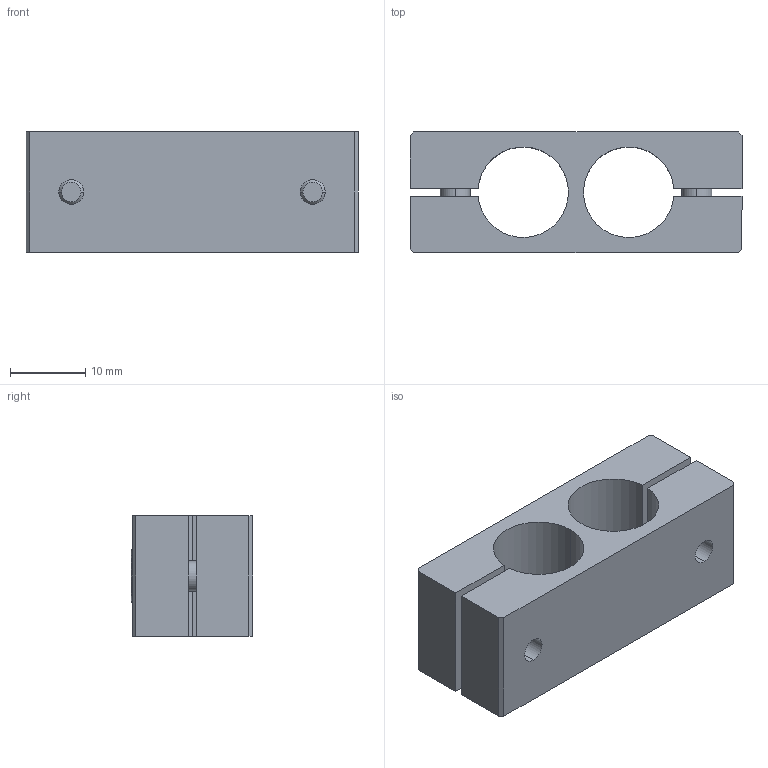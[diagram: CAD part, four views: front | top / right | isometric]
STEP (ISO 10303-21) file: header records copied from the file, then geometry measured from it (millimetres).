
FILE_DESCRIPTION (( 'STEP AP214' ), '1' );
FILE_NAME ('SMBP-1212T.STEP', '2022-12-30T08:49:15', ( 'Windows User' ), ( 'P R C' ), 'SwSTEP 2.0', 'SolidWorks 2018', '' );
FILE_SCHEMA (( 'AUTOMOTIVE_DESIGN' ));
Length unit declared in the file: millimetre
Products named in the file (1): SMBP-1212T
Bounding box: 44 x 16.1 x 16 mm (x, y, z)
Volume: 7209.4 mm3; surface area: 5683.4 mm2
Topology: 5 solids, 5 shells, 461 faces, 1327 edges, 878 vertices
Faces by surface type: plane 422, cylinder 31, cone 4, bspline 4
Entity records: 20574 total; most frequent: CARTESIAN_POINT 2915, DIRECTION 2673, ORIENTED_EDGE 2654, EDGE_CURVE 1327, AXIS2_PLACEMENT_3D 896, VECTOR 881, LINE 881, VERTEX_POINT 878
